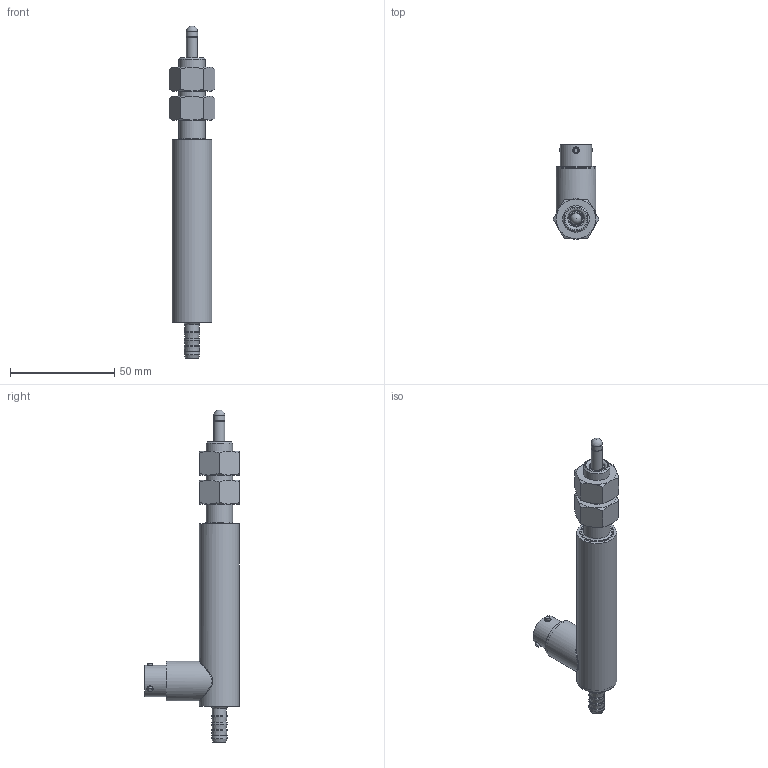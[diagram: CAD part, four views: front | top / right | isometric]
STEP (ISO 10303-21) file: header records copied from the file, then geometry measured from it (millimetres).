
FILE_DESCRIPTION(/* description */ (''),/* implementation_level */ '2;1');
FILE_NAME(/* name */ 'GHRA-750-I-250 ASS''Y.step',/* time_stamp */ '2023-09-01T12:43:07-04:00',/* author */ ('J. Nielson'),/* organization */ (''),/* preprocessor_version */ 'ST-DEVELOPER v19.2',/* originating_system */ 'Autodesk Inventor 2024',/* authorisation */ '');
FILE_SCHEMA (('AUTOMOTIVE_DESIGN { 1 0 10303 214 3 1 1 }'));
Length unit declared in the file: inch
Products named in the file (4): GHRA-750-E-250 ASS'Y; GHR-750-E-125 SHAFT ASSEMBLY_SW; GHR-750-E-250 HOUSING ASSEMBLY_SW; AS 2465 - 1/2  UNF
Assembly tree (4 placements, depth 2):
  GHRA-750-E-250 ASS'Y
    GHR-750-E-125 SHAFT ASSEMBLY_SW
    GHR-750-E-250 HOUSING ASSEMBLY_SW
    AS 2465 - 1/2  UNF  x2
Bounding box: 22 x 45.24 x 159.13 mm (x, y, z)
Volume: 20807.1 mm3; surface area: 23875 mm2
Topology: 17 solids, 17 shells, 228 faces, 458 edges, 296 vertices
Faces by surface type: plane 92, cylinder 75, cone 47, bspline 8, torus 5, sphere 1
Full cylindrical faces by diameter (mm): 0.762 x12, 2.032 x3, 2.845 x3, 3.048 x3, 4.762 x1, 4.826 x2, 5.334 x4, 5.397 x1, 6 x1, 6.731 x1, 7.493 x4, 7.671 x2, 7.874 x2, 11.328 x2, 12.7 x1, 13.208 x1, 14.986 x1, 15.748 x2, 16.51 x1, 17.018 x1, 17.069 x1, 17.78 x1, 18.034 x1, 18.415 x6, 19.05 x2
Entity records: 7756 total; most frequent: CARTESIAN_POINT 2997, DIRECTION 967, ORIENTED_EDGE 812, AXIS2_PLACEMENT_3D 414, EDGE_CURVE 406, VERTEX_POINT 267, EDGE_LOOP 265, FACE_OUTER_BOUND 205
